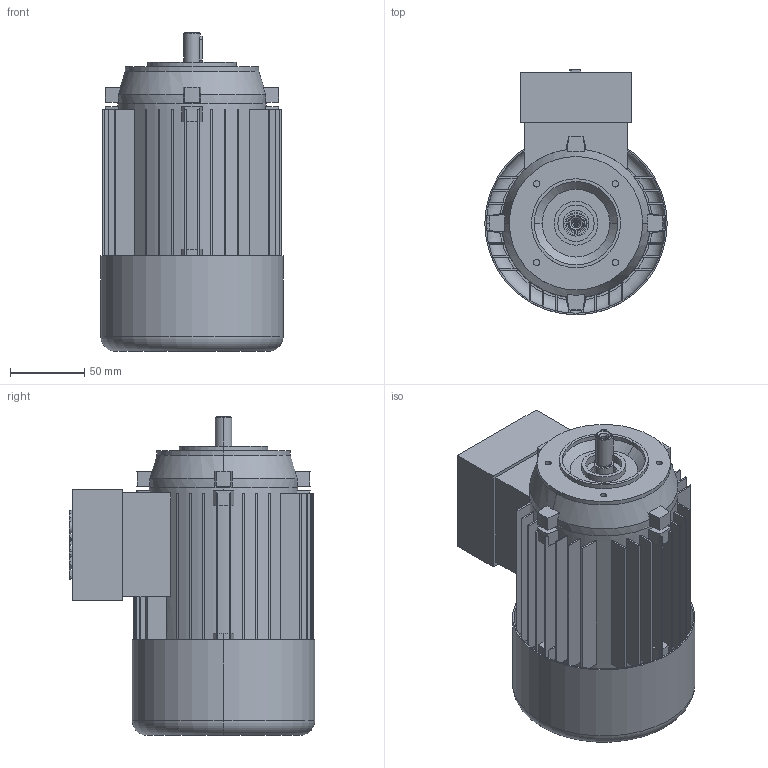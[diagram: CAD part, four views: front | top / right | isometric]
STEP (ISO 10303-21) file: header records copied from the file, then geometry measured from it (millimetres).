
FILE_DESCRIPTION (( 'STEP AP203' ), '1' );
FILE_NAME ('5AZ 63 B14_small STANDK.STEP', '2017-11-10T09:25:01', ( '' ), ( '' ), 'SwSTEP 2.0', 'SolidWorks 2017', '' );
FILE_SCHEMA (( 'CONFIG_CONTROL_DESIGN' ));
Length unit declared in the file: millimetre
Products named in the file (1): 5AZ 63 B14_small STANDK
Bounding box: 123 x 165.5 x 215 mm (x, y, z)
Volume: 665074.2 mm3; surface area: 303671.7 mm2
Topology: 7 solids, 7 shells, 498 faces, 1286 edges, 847 vertices
Faces by surface type: plane 322, cylinder 133, cone 30, bspline 9, torus 4
Entity records: 15422 total; most frequent: CARTESIAN_POINT 2879, DIRECTION 2652, ORIENTED_EDGE 2568, EDGE_CURVE 1284, AXIS2_PLACEMENT_3D 924, VERTEX_POINT 847, VECTOR 804, LINE 804
